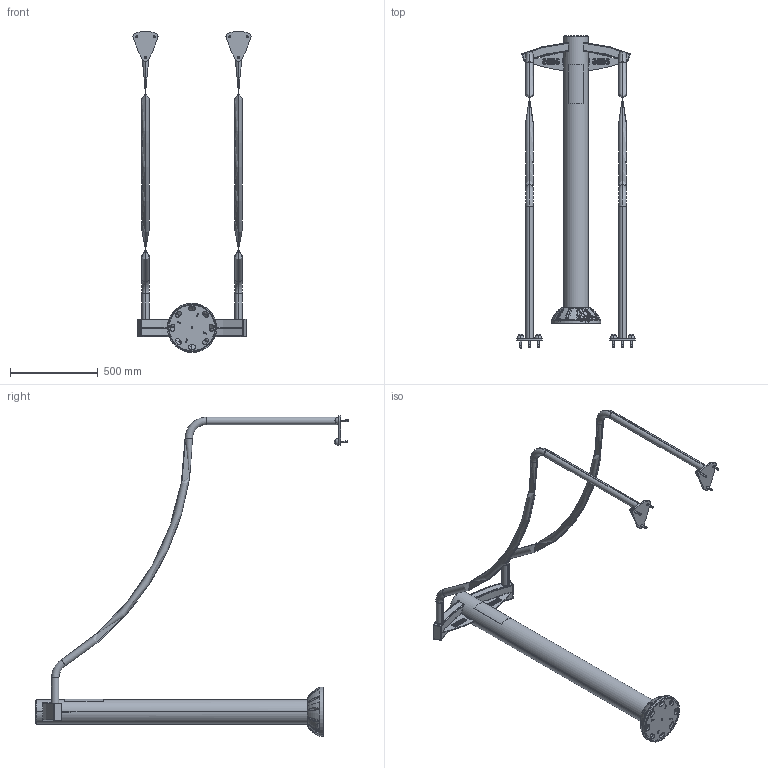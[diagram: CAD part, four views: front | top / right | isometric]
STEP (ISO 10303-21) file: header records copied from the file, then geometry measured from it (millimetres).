
FILE_DESCRIPTION (( 'STEP AP214' ), '1' );
FILE_NAME ('M0317 - PUMPER BACK V1.0.STEP', '2016-09-15T19:37:10', ( '' ), ( '' ), 'SwSTEP 2.0', 'SolidWorks 2014', '' );
FILE_SCHEMA (( 'AUTOMOTIVE_DESIGN' ));
Length unit declared in the file: millimetre
Products named in the file (21): TROCB-M0317 - Tube cintre Pumper Back; PU-TDRFIT219 - Tole renfort Fitpark L219 H106 V1.0; SCH1807 - Chapeau 96x46 V1.0; SCH1806.A - Chapeau D135 V1.0; PU-TRETRAV618 - Tube rectangulaire cintré R750 100x50x3 L618 V1.0_Trous D.33,7 non traversant 2; SPLC0900 - Plaque de consigne en Dibond 90x220x2mm; TROCOB-M0317 - Colonne base haute D.139,7x3 Ht1620 Pumper Back V1.0; SF1113 - Ecrou M10 A2_default; PLATINE BASE ASS V2.0; SR0426 - Rondelle plate petite M10 A2 ext 18mm; PU-TOLGOPL - Gousset platine V2.0; PU-TOLPLAT - Platine base V1.0; SB0128 - Cheville M10x70_default; SC0304 - CACHE PLATINE ASS V4.0; M0317 - PUMPER BACK V1.0; SB0112 - Vis Torx teton central M8x20_M8x20; SC0304 - Demi cache platine D140 V4.0; SC0300C.N - Petit capuchon en nylon 40 mm; SC0300B.N - Base pour capuchon en nylon 40mm; BATI-M0317 - CHASSIS PUMPER BACK; PU-TOLSCEL - Platine de  scellement Pumper V1.0_Pumper
Assembly tree (43 placements, depth 4):
  M0317 - PUMPER BACK V1.0
    BATI-M0317 - CHASSIS PUMPER BACK
      PLATINE BASE ASS V2.0
        PU-TOLPLAT - Platine base V1.0
        PU-TOLGOPL - Gousset platine V2.0  x4
      TROCOB-M0317 - Colonne base haute D.139,7x3 Ht1620 Pumper Back V1.0
      PU-TRETRAV618 - Tube rectangulaire cintré R750 100x50x3 L618 V1.0_Trous D.33,7 non traversant 2
      SCH1806.A - Chapeau D135 V1.0
      SCH1807 - Chapeau 96x46 V1.0  x2
      PU-TDRFIT219 - Tole renfort Fitpark L219 H106 V1.0  x2
      TROCB-M0317 - Tube cintre Pumper Back  x2
      PU-TOLSCEL - Platine de  scellement Pumper V1.0_Pumper  x2
    SC0300B.N - Base pour capuchon en nylon 40mm  x6
    SC0300C.N - Petit capuchon en nylon 40 mm  x6
    SC0304 - CACHE PLATINE ASS V4.0
      SC0304 - Demi cache platine D140 V4.0
      SB0112 - Vis Torx teton central M8x20_M8x20  x2
    SB0128 - Cheville M10x70_default  x6
    SR0426 - Rondelle plate petite M10 A2 ext 18mm
    SF1113 - Ecrou M10 A2_default
    SPLC0900 - Plaque de consigne en Dibond 90x220x2mm
Bounding box: 672.67 x 1781.58 x 1828.54 mm (x, y, z)
Volume: 6391010.5 mm3; surface area: 3694955.3 mm2
Topology: 41 solids, 41 shells, 1438 faces, 3608 edges, 2308 vertices
Faces by surface type: bspline 416, plane 406, cylinder 350, cone 162, torus 80, sphere 24
Entity records: 116003 total; most frequent: CARTESIAN_POINT 96364, ORIENTED_EDGE 4404, DIRECTION 3196, EDGE_CURVE 2202, VERTEX_POINT 1408, AXIS2_PLACEMENT_3D 1256, EDGE_LOOP 960, FACE_OUTER_BOUND 848
